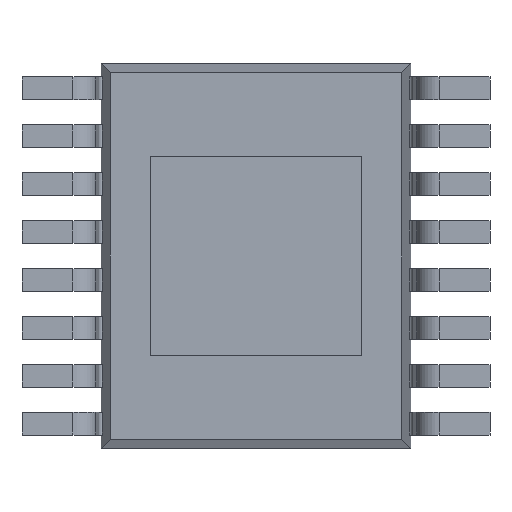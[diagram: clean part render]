
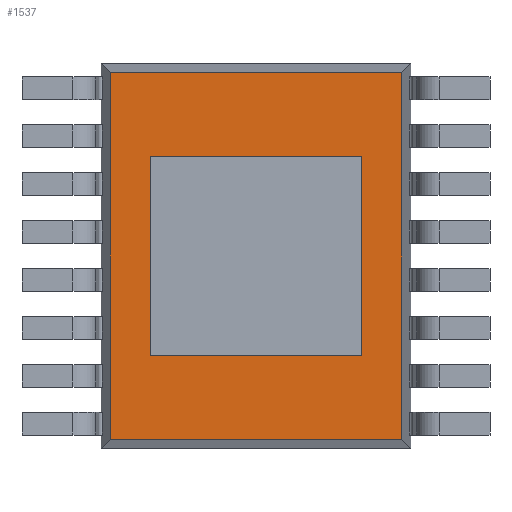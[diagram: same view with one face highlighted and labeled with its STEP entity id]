
A CAD part, front view. The second image highlights one B-rep face of the part: STEP entity #1537.
In plain terms, the highlighted planar face has unit normal (0, -1, 0).
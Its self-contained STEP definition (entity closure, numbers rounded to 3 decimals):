
#239 = ORIENTED_EDGE ( 'NONE', *, *, #2559, .T. ) ;
#240 = ORIENTED_EDGE ( 'NONE', *, *, #2905, .T. ) ;
#241 = ORIENTED_EDGE ( 'NONE', *, *, #2604, .T. ) ;
#242 = ORIENTED_EDGE ( 'NONE', *, *, #2900, .T. ) ;
#739 = ORIENTED_EDGE ( 'NONE', *, *, #2903, .T. ) ;
#740 = ORIENTED_EDGE ( 'NONE', *, *, #2902, .T. ) ;
#741 = ORIENTED_EDGE ( 'NONE', *, *, #2901, .T. ) ;
#838 = EDGE_LOOP ( 'NONE', ( #739, #740, #741, #242 ) ) ;
#840 = EDGE_LOOP ( 'NONE', ( #241, #240, #239, #916 ) ) ;
#916 = ORIENTED_EDGE ( 'NONE', *, *, #2904, .T. ) ;
#1537 = ADVANCED_FACE ( 'NONE', ( #7075, #7077 ), #6292, .F. ) ;
#1734 = VERTEX_POINT ( 'NONE', #6416 ) ;
#1751 = VERTEX_POINT ( 'NONE', #6428 ) ;
#1753 = VERTEX_POINT ( 'NONE', #6430 ) ;
#1758 = VERTEX_POINT ( 'NONE', #6435 ) ;
#1989 = VERTEX_POINT ( 'NONE', #6602 ) ;
#1991 = VERTEX_POINT ( 'NONE', #6604 ) ;
#1993 = VERTEX_POINT ( 'NONE', #6606 ) ;
#1994 = VERTEX_POINT ( 'NONE', #6607 ) ;
#2559 = EDGE_CURVE ( 'NONE', #1734, #1758, #7493, .T. ) ;
#2604 = EDGE_CURVE ( 'NONE', #1753, #1751, #7556, .T. ) ;
#2900 = EDGE_CURVE ( 'NONE', #1994, #1991, #9001, .T. ) ;
#2901 = EDGE_CURVE ( 'NONE', #1993, #1994, #8994, .T. ) ;
#2902 = EDGE_CURVE ( 'NONE', #1989, #1993, #9004, .T. ) ;
#2903 = EDGE_CURVE ( 'NONE', #1991, #1989, #9006, .T. ) ;
#2904 = EDGE_CURVE ( 'NONE', #1758, #1753, #9009, .T. ) ;
#2905 = EDGE_CURVE ( 'NONE', #1751, #1734, #9012, .T. ) ;
#5236 = AXIS2_PLACEMENT_3D ( 'NONE', #6290, #6287, #6294 ) ;
#6287 = DIRECTION ( 'NONE',  ( 0., 1., 0. ) ) ;
#6290 = CARTESIAN_POINT ( 'NONE',  ( 0., 0.1, 0. ) ) ;
#6292 = PLANE ( 'NONE',  #5236 ) ;
#6294 = DIRECTION ( 'NONE',  ( 0., 0., 1. ) ) ;
#6416 = CARTESIAN_POINT ( 'NONE',  ( 1.931, 0.1, -2.431 ) ) ;
#6428 = CARTESIAN_POINT ( 'NONE',  ( -1.931, 0.1, -2.431 ) ) ;
#6430 = CARTESIAN_POINT ( 'NONE',  ( -1.931, 0.1, 2.431 ) ) ;
#6435 = CARTESIAN_POINT ( 'NONE',  ( 1.931, 0.1, 2.431 ) ) ;
#6602 = CARTESIAN_POINT ( 'NONE',  ( 1.4, 0.1, 1.32 ) ) ;
#6604 = CARTESIAN_POINT ( 'NONE',  ( -1.4, 0.1, 1.32 ) ) ;
#6606 = CARTESIAN_POINT ( 'NONE',  ( 1.4, 0.1, -1.32 ) ) ;
#6607 = CARTESIAN_POINT ( 'NONE',  ( -1.4, 0.1, -1.32 ) ) ;
#7075 = FACE_BOUND ( 'NONE', #838, .T. ) ;
#7077 = FACE_OUTER_BOUND ( 'NONE', #840, .T. ) ;
#7493 = LINE ( 'NONE', #8166, #7506 ) ;
#7506 = VECTOR ( 'NONE', #8161, 1000. ) ;
#7556 = LINE ( 'NONE', #8233, #7587 ) ;
#7587 = VECTOR ( 'NONE', #8269, 1000. ) ;
#8161 = DIRECTION ( 'NONE',  ( 0., 0., 1. ) ) ;
#8166 = CARTESIAN_POINT ( 'NONE',  ( 1.931, 0.1, 2.55 ) ) ;
#8233 = CARTESIAN_POINT ( 'NONE',  ( -1.931, 0.1, 2.55 ) ) ;
#8269 = DIRECTION ( 'NONE',  ( 0., 0., -1. ) ) ;
#8994 = LINE ( 'NONE', #9196, #9005 ) ;
#9001 = LINE ( 'NONE', #9207, #9003 ) ;
#9003 = VECTOR ( 'NONE', #9209, 1000. ) ;
#9004 = LINE ( 'NONE', #9211, #9008 ) ;
#9005 = VECTOR ( 'NONE', #9210, 1000. ) ;
#9006 = LINE ( 'NONE', #9213, #9010 ) ;
#9008 = VECTOR ( 'NONE', #9212, 1000. ) ;
#9009 = LINE ( 'NONE', #9215, #9013 ) ;
#9010 = VECTOR ( 'NONE', #9214, 1000. ) ;
#9012 = LINE ( 'NONE', #9217, #9015 ) ;
#9013 = VECTOR ( 'NONE', #9216, 1000. ) ;
#9015 = VECTOR ( 'NONE', #9218, 1000. ) ;
#9196 = CARTESIAN_POINT ( 'NONE',  ( 0., 0.1, -1.32 ) ) ;
#9207 = CARTESIAN_POINT ( 'NONE',  ( -1.4, 0.1, 0. ) ) ;
#9209 = DIRECTION ( 'NONE',  ( 0., 0., 1. ) ) ;
#9210 = DIRECTION ( 'NONE',  ( -1., 0., 0. ) ) ;
#9211 = CARTESIAN_POINT ( 'NONE',  ( 1.4, 0.1, 0. ) ) ;
#9212 = DIRECTION ( 'NONE',  ( 0., 0., -1. ) ) ;
#9213 = CARTESIAN_POINT ( 'NONE',  ( 0., 0.1, 1.32 ) ) ;
#9214 = DIRECTION ( 'NONE',  ( 1., 0., 0. ) ) ;
#9215 = CARTESIAN_POINT ( 'NONE',  ( 2.05, 0.1, 2.431 ) ) ;
#9216 = DIRECTION ( 'NONE',  ( -1., 0., 0. ) ) ;
#9217 = CARTESIAN_POINT ( 'NONE',  ( 2.05, 0.1, -2.431 ) ) ;
#9218 = DIRECTION ( 'NONE',  ( 1., 0., 0. ) ) ;
